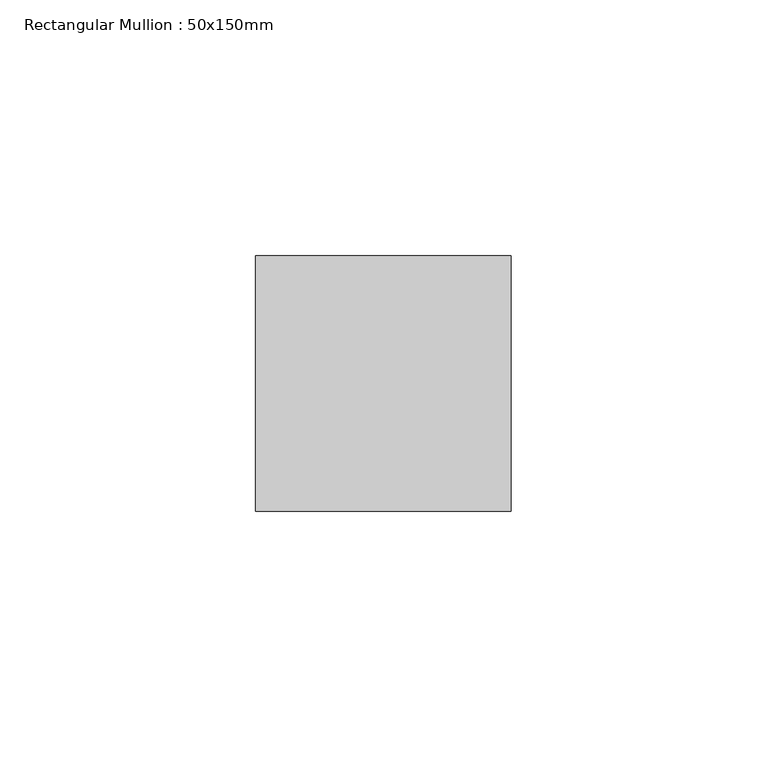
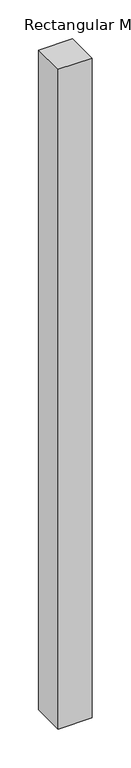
"""IFC4 building model written with IfcOpenShell, lengths in millimetres: member geometry, Rectangular Mullion : 50x150mm."""

from ifc_helpers import new_model, si_unit, frame, origin, place, context, project, spatial, polyline, outline, extrude, source, transform, mapped, element, save


def rectangular_mullion_50x150mm_7bc943a1(model_context):
    return source(origin(), model_context, "Body", "SweptSolid", [
        extrude(outline(polyline([(25.0, 25.0), (25.0, -25.0), (-25.0, -25.0), (-25.0, 25.0), (25.0, 25.0)])), frame((0.0, 0.0, -1033.4529299), z_axis=(0.0, 0.0, 1.0), x_axis=(1.0, 0.0, 0.0)), (0.0, 0.0, 1.0), 1033.4529299),
    ])


if __name__ == "__main__":
    model = new_model("IFC4")
    model_context = context("Model", 3, world=origin())
    ifc_project = project(units=[si_unit("LENGTHUNIT", "METRE", prefix="MILLI")], contexts=[model_context])
    site = spatial("IfcSite", under=ifc_project)
    building = spatial("IfcBuilding", under=site)
    placement = place(None, origin())
    rectangular_mullion_50x150mm_shape = rectangular_mullion_50x150mm_7bc943a1(model_context)
    element("IfcMember", 1, ObjectType="Rectangular Mullion : 50x150mm", at=placement, inside=building, context=model_context, shape_type="MappedRepresentation", body=[
        mapped(rectangular_mullion_50x150mm_shape, transform((0.0, 0.0, 0.0), x_axis=(1.0, 0.0, 0.0), y_axis=(0.0, 1.0, 0.0), z_axis=(0.0, 0.0, 1.0))),
    ])
    save(model, "model.ifc")
